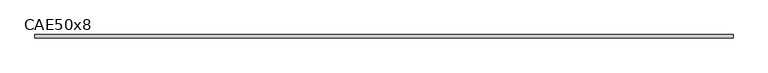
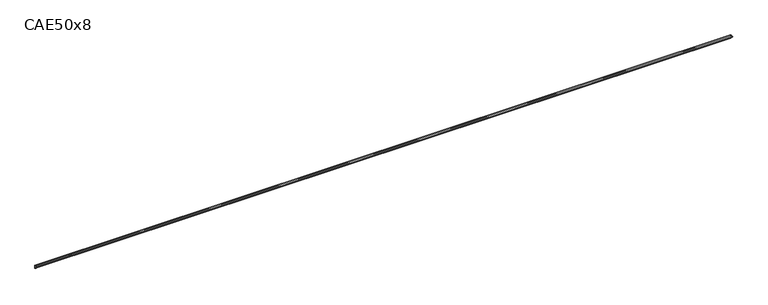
"""IFC4 building model written with IfcOpenShell, lengths in millimetres: beam geometry, L-Cornières : CAE50x8."""

from ifc_helpers import new_model, si_unit, point, frame, frame_2d, origin, place, context, project, spatial, polyline, circle_curve, trimmed, segment, composite_curve, outline, extrude, source, transform, mapped, element, save


def cae50x8_c14da1f2(model_context):
    return source(origin(), model_context, "Body", "SweptSolid", [
        extrude(outline(composite_curve([segment(polyline([(15.2, 15.2), (15.2, -34.8)]), True, "CONTINUOUS"), segment(trimmed(circle_curve(frame_2d((15.2, -26.8)), 8.0), [point((15.2, -34.8))], [point((7.2, -26.8))], False, "CARTESIAN"), True, "CONTINUOUS"), segment(polyline([(7.2, -26.8), (7.2, -0.8)]), True, "CONTINUOUS"), segment(trimmed(circle_curve(frame_2d((-0.8, -0.8)), 8.0), [point((7.2, -0.8))], [point((-0.8, 7.2))], True, "CARTESIAN"), True, "CONTINUOUS"), segment(polyline([(-0.8, 7.2), (-26.8, 7.2)]), True, "CONTINUOUS"), segment(trimmed(circle_curve(frame_2d((-26.8, 15.2)), 8.0), [point((-26.8, 7.2))], [point((-34.8, 15.2))], False, "CARTESIAN"), True, "CONTINUOUS"), segment(polyline([(-34.8, 15.2), (15.2, 15.2)]), True, "CONTINUOUS")], self_intersect=False)), frame((-5413.0, 0.0, 0.0), z_axis=(1.0, 0.0, 0.0), x_axis=(0.0, 1.0, 0.0)), (0.0, 0.0, 1.0), 10917.0),
    ])


if __name__ == "__main__":
    model = new_model("IFC4")
    model_context = context("Model", 3, world=origin())
    ifc_project = project(units=[si_unit("LENGTHUNIT", "METRE", prefix="MILLI")], contexts=[model_context])
    site = spatial("IfcSite", under=ifc_project)
    building = spatial("IfcBuilding", under=site)
    placement = place(None, origin())
    cae50x8_shape = cae50x8_c14da1f2(model_context)
    element("IfcBeam", 1, ObjectType="L-Cornières : CAE50x8", at=placement, inside=building, context=model_context, shape_type="MappedRepresentation", body=[
        mapped(cae50x8_shape, transform((0.0, 0.0, 0.0), x_axis=(1.0, 0.0, 0.0), y_axis=(0.0, 1.0, 0.0), z_axis=(0.0, 0.0, 1.0))),
    ])
    save(model, "model.ifc")
